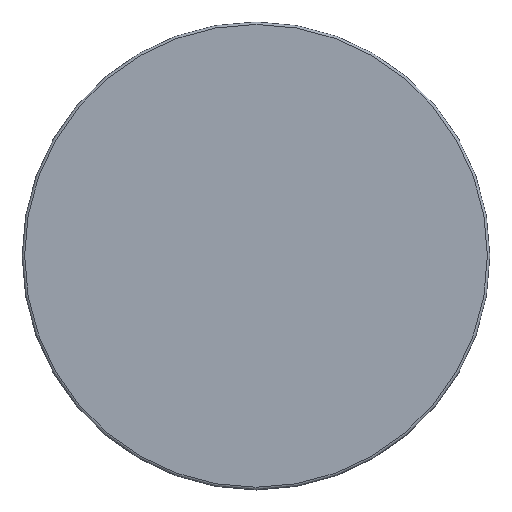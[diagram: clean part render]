
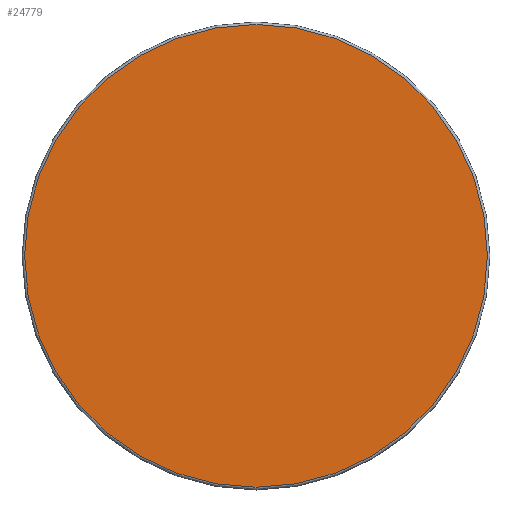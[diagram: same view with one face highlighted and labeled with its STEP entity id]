
A CAD part, top view. The second image highlights one B-rep face of the part: STEP entity #24779.
In plain terms, the highlighted planar face has unit normal (0, 0, 1).
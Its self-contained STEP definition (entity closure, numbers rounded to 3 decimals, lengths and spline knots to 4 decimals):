
#48=CIRCLE('',#25295,2.9218);
#651=PLANE('',#25300);
#1957=FACE_OUTER_BOUND('',#3373,.T.);
#3373=EDGE_LOOP('',(#22509));
#11502=VERTEX_POINT('',#49956);
#15181=EDGE_CURVE('',#11502,#11502,#48,.T.);
#22509=ORIENTED_EDGE('',*,*,#15181,.F.);
#24779=ADVANCED_FACE('',(#1957),#651,.T.);
#25295=AXIS2_PLACEMENT_3D('',#49957,#28271,#28272);
#25300=AXIS2_PLACEMENT_3D('',#49965,#28282,#28283);
#28271=DIRECTION('center_axis',(0.,0.,-1.));
#28272=DIRECTION('ref_axis',(1.,0.,0.));
#28282=DIRECTION('center_axis',(0.,0.,1.));
#28283=DIRECTION('ref_axis',(1.,0.,0.));
#49956=CARTESIAN_POINT('',(-2.9218,0.,2.));
#49957=CARTESIAN_POINT('Origin',(0.,0.,2.));
#49965=CARTESIAN_POINT('Origin',(0.,0.,2.));
